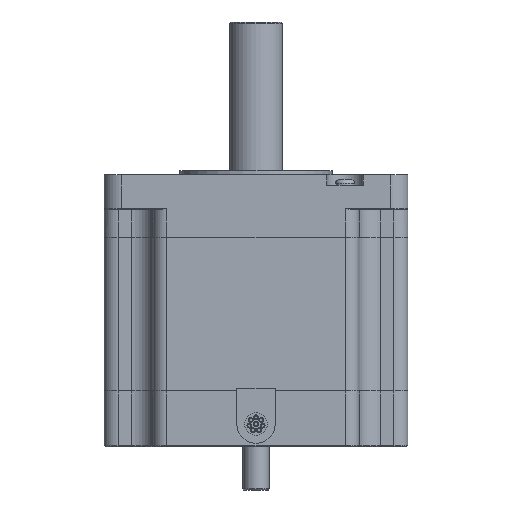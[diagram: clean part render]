
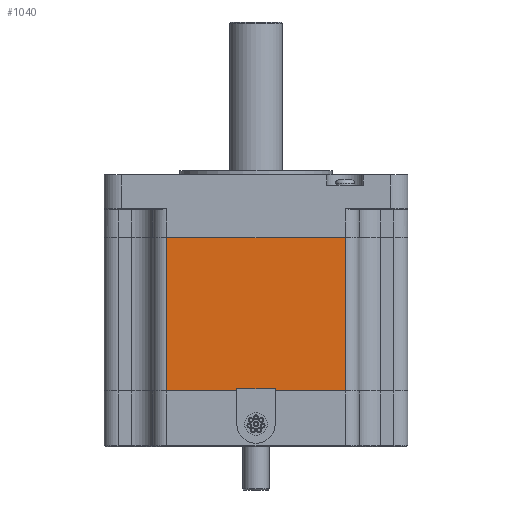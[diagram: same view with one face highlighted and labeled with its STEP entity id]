
A CAD part, front view. The second image highlights one B-rep face of the part: STEP entity #1040.
In plain terms, the highlighted planar face has unit normal (0, -1, 0).
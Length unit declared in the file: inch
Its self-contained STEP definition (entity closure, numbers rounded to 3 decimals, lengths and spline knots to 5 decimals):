
#976 = VERTEX_POINT ( 'NONE', #5457 ) ;
#987 = EDGE_LOOP ( 'NONE', ( #1054, #1051, #1053, #1038 ) ) ;
#1038 = ORIENTED_EDGE ( 'NONE', *, *, #1057, .T. ) ;
#1039 = EDGE_CURVE ( 'NONE', #1041, #8488, #5643, .T. ) ;
#1040 = ADVANCED_FACE ( 'NONE', ( #5609 ), #5637, .F. ) ;
#1041 = VERTEX_POINT ( 'NONE', #5610 ) ;
#1044 = EDGE_CURVE ( 'NONE', #976, #1041, #5678, .T. ) ;
#1051 = ORIENTED_EDGE ( 'NONE', *, *, #1039, .F. ) ;
#1053 = ORIENTED_EDGE ( 'NONE', *, *, #1044, .F. ) ;
#1054 = ORIENTED_EDGE ( 'NONE', *, *, #8493, .T. ) ;
#1057 = EDGE_CURVE ( 'NONE', #976, #8495, #5725, .T. ) ;
#5457 = CARTESIAN_POINT ( 'NONE',  ( 1.2775, -2.1765, -3.1 ) ) ;
#5609 = FACE_OUTER_BOUND ( 'NONE', #987, .T. ) ;
#5610 = CARTESIAN_POINT ( 'NONE',  ( -1.2775, -2.1765, -3.1 ) ) ;
#5637 = PLANE ( 'NONE',  #5652 ) ;
#5638 = CARTESIAN_POINT ( 'NONE',  ( 1.2775, -2.1765, -3.1 ) ) ;
#5640 = DIRECTION ( 'NONE',  ( 0., 0., 1. ) ) ;
#5641 = VECTOR ( 'NONE', #5640, 39.37008 ) ;
#5642 = CARTESIAN_POINT ( 'NONE',  ( -1.2775, -2.1765, -3.1 ) ) ;
#5643 = LINE ( 'NONE', #5642, #5641 ) ;
#5652 = AXIS2_PLACEMENT_3D ( 'NONE', #5675, #5674, #5673 ) ;
#5669 = DIRECTION ( 'NONE',  ( -1., 0., 0. ) ) ;
#5670 = VECTOR ( 'NONE', #5669, 39.37008 ) ;
#5673 = DIRECTION ( 'NONE',  ( -1., 0., 0. ) ) ;
#5674 = DIRECTION ( 'NONE',  ( 0., 1., 0. ) ) ;
#5675 = CARTESIAN_POINT ( 'NONE',  ( 1.2775, -2.1765, -3.1 ) ) ;
#5678 = LINE ( 'NONE', #5638, #5670 ) ;
#5698 = DIRECTION ( 'NONE',  ( 0., 0., 1. ) ) ;
#5712 = CARTESIAN_POINT ( 'NONE',  ( 1.2775, -2.1765, -3.1 ) ) ;
#5725 = LINE ( 'NONE', #5712, #5755 ) ;
#5755 = VECTOR ( 'NONE', #5698, 39.37008 ) ;
#8488 = VERTEX_POINT ( 'NONE', #10562 ) ;
#8493 = EDGE_CURVE ( 'NONE', #8495, #8488, #10619, .T. ) ;
#8495 = VERTEX_POINT ( 'NONE', #10578 ) ;
#10562 = CARTESIAN_POINT ( 'NONE',  ( -1.2775, -2.1765, -0.9 ) ) ;
#10578 = CARTESIAN_POINT ( 'NONE',  ( 1.2775, -2.1765, -0.9 ) ) ;
#10616 = DIRECTION ( 'NONE',  ( -1., 0., 0. ) ) ;
#10617 = VECTOR ( 'NONE', #10616, 39.37008 ) ;
#10618 = CARTESIAN_POINT ( 'NONE',  ( 1.2775, -2.1765, -0.9 ) ) ;
#10619 = LINE ( 'NONE', #10618, #10617 ) ;
